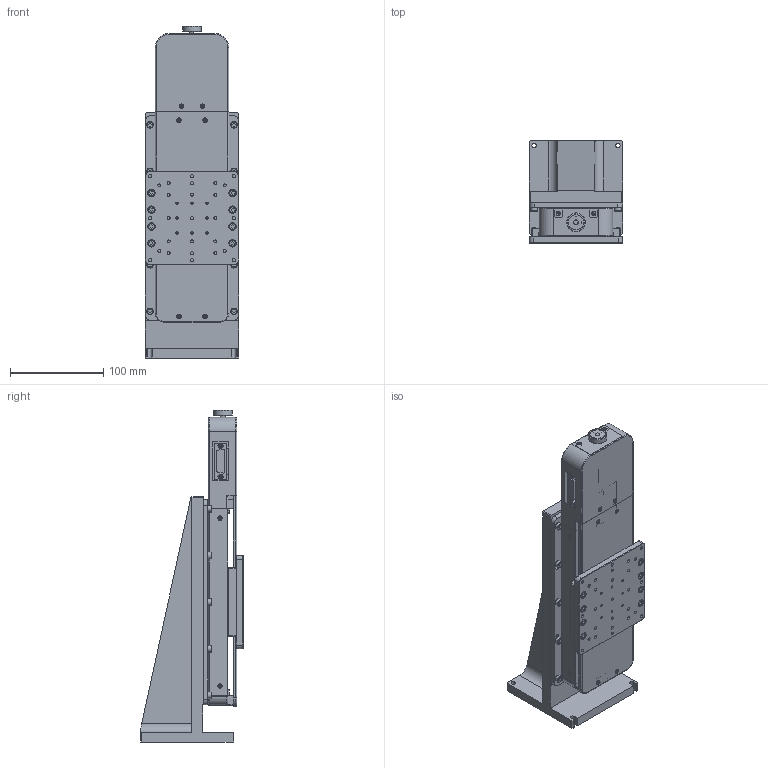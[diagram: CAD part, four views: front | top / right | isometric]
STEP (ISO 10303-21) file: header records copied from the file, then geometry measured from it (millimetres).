
FILE_DESCRIPTION((''),'2;1');
FILE_NAME('Z:\1規格品図面ﾃﾞｰﾀ\世界カタログ\OSMS\Z\HP_ﾀﾞｳﾝﾛｰﾄﾞ用\3D\OSMS26-100(Z)\OSMS26-100(Z)_STP.stp','2014-03-24T17:37:09',('kawashima'),(''),'Autodesk Inventor 2008','Autodesk Inventor 2008','');
FILE_SCHEMA(('AUTOMOTIVE_DESIGN { 1 0 10303 214 1 1 1 1 }'));
Length unit declared in the file: millimetre
Products named in the file (4): OS2610Z-M02-13001-TS01; OSZ-26-1; OS2610Z-M02-13001-S08; OS2610Z-M02-13001-S03
Assembly tree (3 placements, depth 2):
  OS2610Z-M02-13001-TS01
    OSZ-26-1
    OS2610Z-M02-13001-S08
    OS2610Z-M02-13001-S03
Bounding box: 100 x 110 x 356 mm (x, y, z)
Volume: 1189218.2 mm3; surface area: 380323.8 mm2
Topology: 3 solids, 84 shells, 2433 faces, 6230 edges, 4072 vertices
Faces by surface type: plane 1496, bspline 370, cylinder 362, cone 188, torus 16, sphere 1
Full cylindrical faces by diameter (mm): 1.567 x6, 1.6 x2, 2 x6, 2.113 x2, 2.5 x2, 2.6 x6, 3 x17, 3.5 x1, 3.8 x2, 4 x46, 4.5 x8, 5 x3, 5.5 x8, 6 x4, 7 x22, 8 x7, 12 x1, 15 x1, 20 x1
Entity records: 74087 total; most frequent: CARTESIAN_POINT 19118, ORIENTED_EDGE 10812, DIRECTION 10801, EDGE_CURVE 5406, VERTEX_POINT 3765, AXIS2_PLACEMENT_3D 3623, VECTOR 3555, LINE 3555
